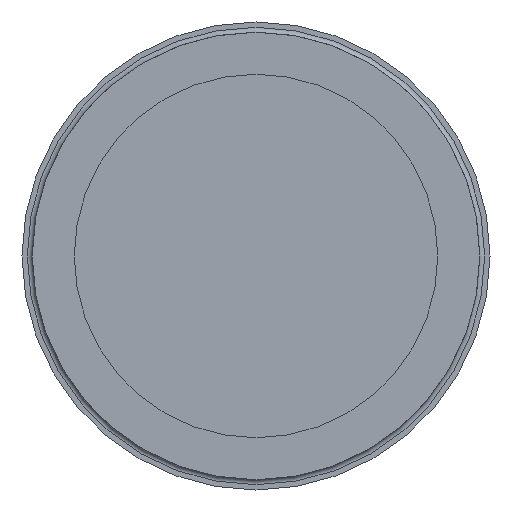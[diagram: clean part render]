
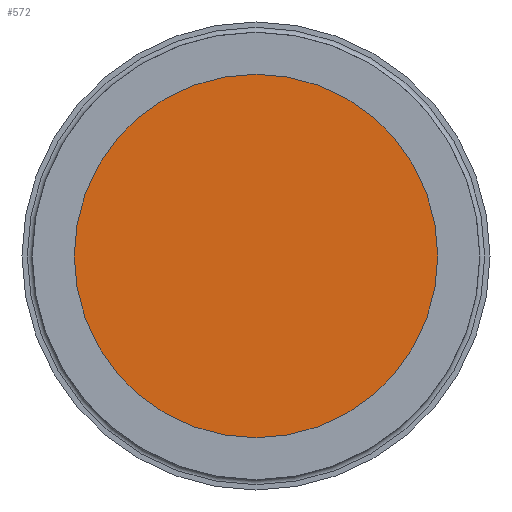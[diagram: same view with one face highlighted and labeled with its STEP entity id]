
A CAD part, left-side view. The second image highlights one B-rep face of the part: STEP entity #572.
In plain terms, the highlighted planar face has unit normal (-1, 0, 0).
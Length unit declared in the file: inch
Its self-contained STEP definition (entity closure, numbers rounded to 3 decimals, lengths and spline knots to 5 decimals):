
#572 = ADVANCED_FACE( '', ( #1229 ), #1230, .F. );
#1229 = FACE_OUTER_BOUND( '', #2542, .T. );
#1230 = PLANE( '', #2543 );
#2542 = EDGE_LOOP( '', ( #4796 ) );
#2543 = AXIS2_PLACEMENT_3D( '', #4797, #4798, #4799 );
#4796 = ORIENTED_EDGE( '', *, *, #5363, .T. );
#4797 = CARTESIAN_POINT( '', ( -0.02227, 0., 0. ) );
#4798 = DIRECTION( '', ( 1., 0., 0. ) );
#4799 = DIRECTION( '', ( 0., 0., -1. ) );
#5363 = EDGE_CURVE( '', #6291, #6291, #6292, .T. );
#6291 = VERTEX_POINT( '', #8162 );
#6292 = CIRCLE( '', #8163, 1.165 );
#8162 = CARTESIAN_POINT( '', ( -0.02227, 0., 1.165 ) );
#8163 = AXIS2_PLACEMENT_3D( '', #9649, #9650, #9651 );
#9649 = CARTESIAN_POINT( '', ( -0.02227, 0., 0. ) );
#9650 = DIRECTION( '', ( -1., 0., 0. ) );
#9651 = DIRECTION( '', ( 0., 0., 1. ) );
